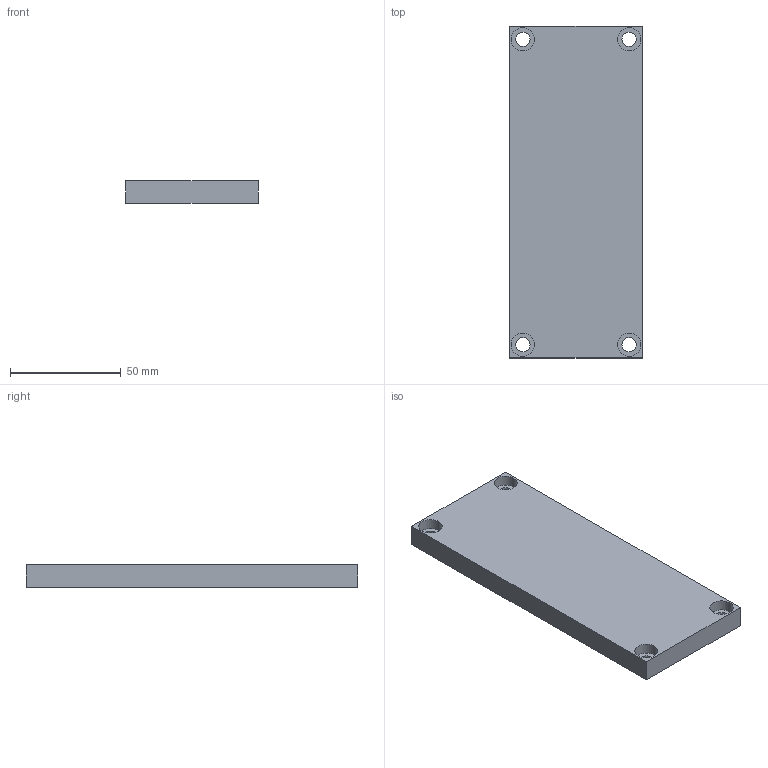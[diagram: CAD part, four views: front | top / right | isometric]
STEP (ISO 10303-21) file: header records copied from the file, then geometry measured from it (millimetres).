
FILE_DESCRIPTION((''),'2;1');
FILE_NAME('V:\CAD\Inventor-Stp\VE 20\stp\06-01-020.stp','2003-10-20T14:14:38',('VS'),(''),'Autodesk Inventor (R) 6.0','Autodesk Inventor (R) 6.0','');
FILE_SCHEMA(('CONFIG_CONTROL_DESIGN'));
Length unit declared in the file: millimetre
Products named in the file (1): Bauteil1
Bounding box: 60 x 150 x 10 mm (x, y, z)
Volume: 87477 mm3; surface area: 23035.5 mm2
Topology: 1 solids, 1 shells, 32 faces, 72 edges, 48 vertices
Faces by surface type: bspline 26, plane 6
Entity records: 1287 total; most frequent: CARTESIAN_POINT 511, ORIENTED_EDGE 144, DIRECTION 126, EDGE_CURVE 72, VERTEX_POINT 48, AXIS2_PLACEMENT_3D 47, EDGE_LOOP 46, CIRCLE 40
